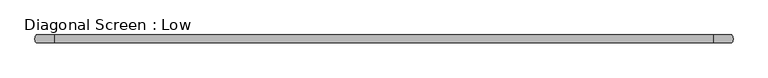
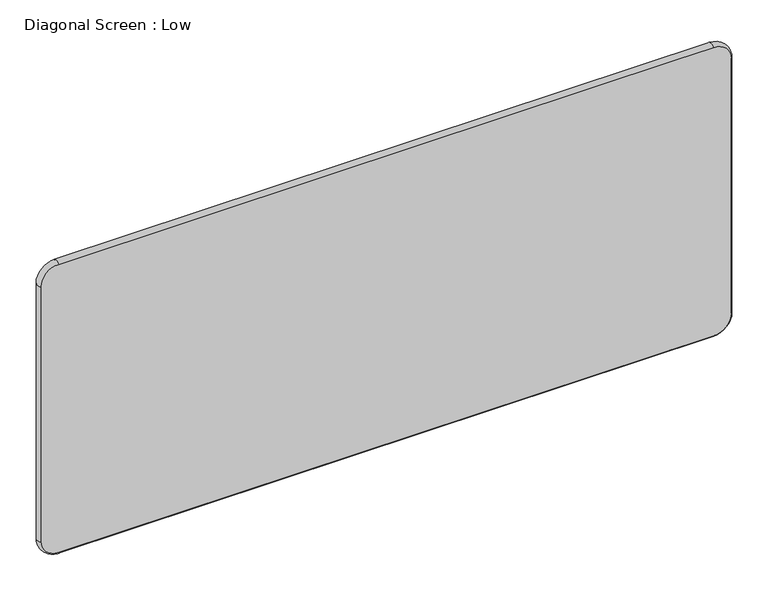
"""IFC4 building model written with IfcOpenShell, lengths in millimetres: furniture geometry, Diagonal Screen : Low."""

from ifc_helpers import new_model, si_unit, point, frame, origin, place, context, project, spatial, circle_curve, ellipse_curve, trimmed, source, transform, mapped, element, save
from ifc_brep_helpers import plane_surface, revolved_surface, extruded_surface, advanced_brep


def diagonal_screen_low_975ad381(model_context):
    return source(origin(), model_context, "Body", "AdvancedBrep", [
        advanced_brep(
        [(-894.9999939, 10.0, 800.0000061), (-850.0, 10.0, 845.0), (-150.0, 10.0, 845.0000061), (750.0, 10.0, 845.0000061), (850.0, 10.0, 845.0), (894.9999939, 10.0, 800.0000061), (894.9999939, 10.0, 100.0), (850.0, 10.0, 55.0000061), (-850.0, 10.0, 55.0000061), (-894.9999939, 10.0, 100.0), (-850.0, -10.0, 845.0), (-894.9999939, -10.0, 800.0000061), (-894.9999939, -10.0, 100.0), (-850.0, -10.0, 55.0000061), (850.0, -10.0, 55.0000061), (894.9999939, -10.0, 100.0), (894.9999939, -10.0, 800.0000061), (850.0, -10.0, 845.0), (750.0, -10.0, 845.0000061), (-150.0, -10.0, 845.0000061), (-850.0, 0.0, 850.0000061), (-900.0, 0.0, 800.0000061), (-900.0, 0.0, 100.0), (-850.0, 0.0, 50.0), (850.0, 0.0, 50.0), (900.0, 0.0, 100.0), (900.0, 0.0, 800.0000061), (850.0, 0.0, 850.0000061)],
        [
            (0, 1, circle_curve(frame((-850.0, 10.0, 800.0000061), z_axis=(0.0, 1.0, 0.0), x_axis=(0.0, 0.0, 1.0)), 44.9999939)),
            (1, 2),
            (2, 3),
            (3, 4),
            (4, 5, circle_curve(frame((850.0, 10.0, 800.0000061), z_axis=(0.0, 1.0, 0.0), x_axis=(1.0, 0.0, 0.0)), 44.9999939)),
            (5, 6),
            (6, 7, circle_curve(frame((850.0, 10.0, 100.0), z_axis=(0.0, 1.0, 0.0), x_axis=(0.0, 0.0, -1.0)), 44.9999939)),
            (7, 8),
            (8, 9, circle_curve(frame((-850.0, 10.0, 100.0), z_axis=(0.0, 1.0, 0.0), x_axis=(-1.0, 0.0, 0.0)), 44.9999939)),
            (9, 0),
            (10, 11, circle_curve(frame((-850.0, -10.0, 800.0000061), z_axis=(0.0, -1.0, 0.0), x_axis=(0.0, 0.0, 1.0)), 44.9999939)),
            (11, 12),
            (12, 13, circle_curve(frame((-850.0, -10.0, 100.0), z_axis=(0.0, -1.0, 0.0), x_axis=(-1.0, 0.0, 0.0)), 44.9999939)),
            (13, 14),
            (14, 15, circle_curve(frame((850.0, -10.0, 100.0), z_axis=(0.0, -1.0, 0.0), x_axis=(0.0, 0.0, -1.0)), 44.9999939)),
            (15, 16),
            (16, 17, circle_curve(frame((850.0, -10.0, 800.0000061), z_axis=(0.0, -1.0, 0.0), x_axis=(1.0, 0.0, 0.0)), 44.9999939)),
            (17, 18),
            (18, 19),
            (19, 10),
            (10, 20, ellipse_curve(frame((-850.0, 0.0, 845.0), z_axis=(-1.0, 0.0, 0.0), x_axis=(0.0, 1.0, 0.0)), 10.0, 5.0000061)),
            (20, 1, ellipse_curve(frame((-850.0, 0.0, 845.0), z_axis=(-1.0, 0.0, 0.0), x_axis=(0.0, 1.0, 0.0)), 10.0, 5.0000061)),
            (0, 21, ellipse_curve(frame((-894.9999939, 0.0, 800.0000061), z_axis=(0.0, 0.0, 1.0), x_axis=(0.0, 1.0, 0.0)), 10.0, 5.0000061)),
            (21, 11, ellipse_curve(frame((-894.9999939, 0.0, 800.0000061), z_axis=(0.0, 0.0, 1.0), x_axis=(0.0, 1.0, 0.0)), 10.0, 5.0000061)),
            (9, 22, ellipse_curve(frame((-894.9999939, 0.0, 100.0), z_axis=(0.0, 0.0, 1.0), x_axis=(0.0, 1.0, 0.0)), 10.0, 5.0000061)),
            (22, 12, ellipse_curve(frame((-894.9999939, 0.0, 100.0), z_axis=(0.0, 0.0, 1.0), x_axis=(0.0, 1.0, 0.0)), 10.0, 5.0000061)),
            (8, 23, ellipse_curve(frame((-850.0, 0.0, 55.0000061), z_axis=(-1.0, 0.0, 0.0), x_axis=(0.0, 1.0, 0.0)), 10.0, 5.0000061)),
            (23, 13, ellipse_curve(frame((-850.0, 0.0, 55.0000061), z_axis=(-1.0, 0.0, 0.0), x_axis=(0.0, 1.0, 0.0)), 10.0, 5.0000061)),
            (7, 24, ellipse_curve(frame((850.0, 0.0, 55.0000061), z_axis=(-1.0, 0.0, 0.0), x_axis=(0.0, 1.0, 0.0)), 10.0, 5.0000061)),
            (24, 14, ellipse_curve(frame((850.0, 0.0, 55.0000061), z_axis=(-1.0, 0.0, 0.0), x_axis=(0.0, 1.0, 0.0)), 10.0, 5.0000061)),
            (6, 25, ellipse_curve(frame((894.9999939, 0.0, 100.0), z_axis=(0.0, 0.0, -1.0), x_axis=(0.0, 1.0, 0.0)), 10.0, 5.0000061)),
            (25, 15, ellipse_curve(frame((894.9999939, 0.0, 100.0), z_axis=(0.0, 0.0, -1.0), x_axis=(0.0, 1.0, 0.0)), 10.0, 5.0000061)),
            (5, 26, ellipse_curve(frame((894.9999939, 0.0, 800.0000061), z_axis=(0.0, 0.0, -1.0), x_axis=(0.0, 1.0, 0.0)), 10.0, 5.0000061)),
            (26, 16, ellipse_curve(frame((894.9999939, 0.0, 800.0000061), z_axis=(0.0, 0.0, -1.0), x_axis=(0.0, 1.0, 0.0)), 10.0, 5.0000061)),
            (4, 27, ellipse_curve(frame((850.0, 0.0, 845.0), z_axis=(1.0, 0.0, 0.0), x_axis=(0.0, 1.0, 0.0)), 10.0, 5.0000061)),
            (27, 17, ellipse_curve(frame((850.0, 0.0, 845.0), z_axis=(1.0, 0.0, 0.0), x_axis=(0.0, 1.0, 0.0)), 10.0, 5.0000061)),
        ],
        [
            plane_surface(frame((-800.0, 10.0, 800.0000061), z_axis=(0.0, 1.0, 0.0), x_axis=(0.0, 0.0, -1.0))),
            plane_surface(frame((-800.0, -10.0, 800.0000061), z_axis=(0.0, -1.0, 0.0), x_axis=(0.0, 0.0, 1.0))),
            revolved_surface(trimmed(ellipse_curve(frame((-850.0, 0.0, 845.0), z_axis=(1.0, 0.0, 0.0), x_axis=(0.0, 1.0, 0.0)), 10.0, 5.0000061), [point((-850.0, 10.0, 845.0))], [point((-850.0, -10.0, 845.0))], True, "CARTESIAN"), (-850.0, -10.0, 800.0000061), (0.0, -1.0, 0.0)),
            extruded_surface(trimmed(ellipse_curve(frame((-894.9999939, 0.0, 800.0000061), z_axis=(0.0, 0.0, -1.0), x_axis=(0.0, 1.0, 0.0)), 10.0, 5.0000061), [point((-894.9999939, -10.0, 800.0000061))], [point((-894.9999939, 10.0, 800.0000061))], True, "CARTESIAN"), (0.0, 0.0, -700.0000061), 700.0000061),
            revolved_surface(trimmed(ellipse_curve(frame((-894.9999939, 0.0, 100.0), z_axis=(0.0, 0.0, 1.0), x_axis=(0.0, 1.0, 0.0)), 10.0, 5.0000061), [point((-894.9999939, 10.0, 100.0))], [point((-894.9999939, -10.0, 100.0))], True, "CARTESIAN"), (-850.0, -10.0, 100.0), (0.0, -1.0, 0.0)),
            extruded_surface(trimmed(ellipse_curve(frame((-850.0, 0.0, 55.0000061), z_axis=(1.0, 0.0, 0.0), x_axis=(0.0, 1.0, 0.0)), 10.0, 5.0000061), [point((-850.0, -10.0, 55.0000061))], [point((-850.0, 10.0, 55.0000061))], True, "CARTESIAN"), (1700.0, 0.0, 0.0), 1700.0),
            revolved_surface(trimmed(ellipse_curve(frame((850.0, 0.0, 55.0000061), z_axis=(-1.0, 0.0, 0.0), x_axis=(0.0, 1.0, 0.0)), 10.0, 5.0000061), [point((850.0, 10.0, 55.0000061))], [point((850.0, -10.0, 55.0000061))], True, "CARTESIAN"), (850.0, -10.0, 100.0), (0.0, -1.0, 0.0)),
            extruded_surface(trimmed(ellipse_curve(frame((894.9999939, 0.0, 100.0), z_axis=(0.0, 0.0, 1.0), x_axis=(0.0, 1.0, 0.0)), 10.0, 5.0000061), [point((894.9999939, -10.0, 100.0))], [point((894.9999939, 10.0, 100.0))], True, "CARTESIAN"), (0.0, 0.0, 700.0000061), 700.0000061),
            revolved_surface(trimmed(ellipse_curve(frame((894.9999939, 0.0, 800.0000061), z_axis=(0.0, 0.0, -1.0), x_axis=(0.0, 1.0, 0.0)), 10.0, 5.0000061), [point((894.9999939, 10.0, 800.0000061))], [point((894.9999939, -10.0, 800.0000061))], True, "CARTESIAN"), (850.0, -10.0, 800.0000061), (0.0, -1.0, 0.0)),
            extruded_surface(trimmed(ellipse_curve(frame((850.0, 0.0, 845.0), z_axis=(-1.0, 0.0, 0.0), x_axis=(0.0, 1.0, 0.0)), 10.0, 5.0000061), [point((850.0, -10.0, 845.0))], [point((850.0, 10.0, 845.0))], True, "CARTESIAN"), (-1700.0, 0.0, 0.0), 1700.0),
        ],
        [
            (0, [[1, 2, 3, 4, 5, 6, 7, 8, 9, 10]]),
            (1, [[11, 12, 13, 14, 15, 16, 17, 18, 19, 20]]),
            (2, [[21, 22, -1, 23, 24, -11]]),
            (3, [[-23, -10, 25, 26, -12, -24]]),
            (4, [[-25, -9, 27, 28, -13, -26]]),
            (5, [[-27, -8, 29, 30, -14, -28]]),
            (6, [[-29, -7, 31, 32, -15, -30]]),
            (7, [[-31, -6, 33, 34, -16, -32]]),
            (8, [[-33, -5, 35, 36, -17, -34]]),
            (9, [[-21, -20, -19, -18, -36, -35, -4, -3, -2, -22]]),
        ],
    ),
    ])


if __name__ == "__main__":
    model = new_model("IFC4")
    model_context = context("Model", 3, world=origin())
    ifc_project = project(units=[si_unit("LENGTHUNIT", "METRE", prefix="MILLI")], contexts=[model_context])
    site = spatial("IfcSite", under=ifc_project)
    building = spatial("IfcBuilding", under=site)
    placement = place(None, origin())
    diagonal_screen_low_shape = diagonal_screen_low_975ad381(model_context)
    element("IfcFurniture", 1, ObjectType="Diagonal Screen : Low", at=placement, inside=building, context=model_context, shape_type="MappedRepresentation", body=[
        mapped(diagonal_screen_low_shape, transform((0.0, 0.0, 0.0), x_axis=(1.0, 0.0, 0.0), y_axis=(0.0, 1.0, 0.0), z_axis=(0.0, 0.0, 1.0))),
    ])
    save(model, "model.ifc")
